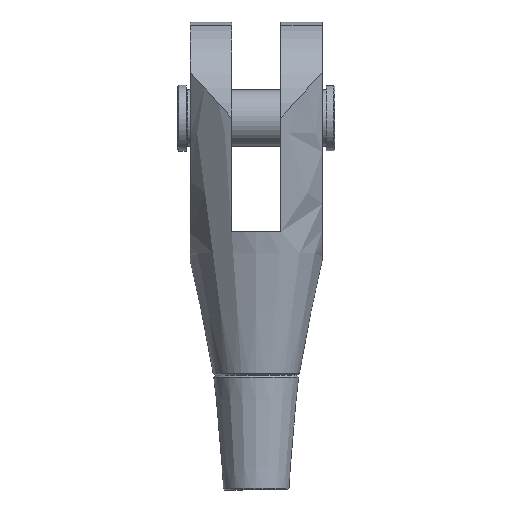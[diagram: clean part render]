
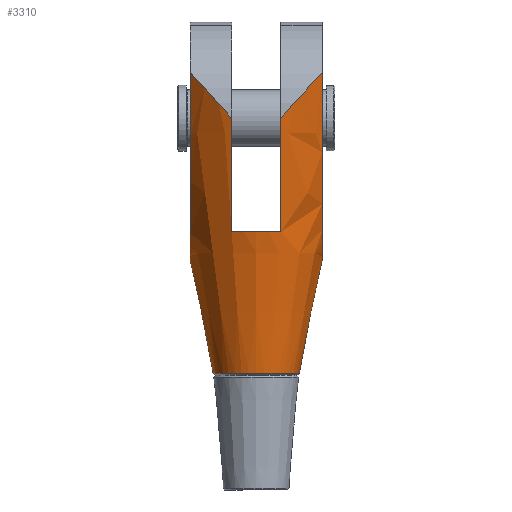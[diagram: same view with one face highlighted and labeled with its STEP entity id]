
A CAD part, front view. The second image highlights one B-rep face of the part: STEP entity #3310.
In plain terms, the highlighted conical face has half-angle 11.5 degrees and reference radius 71.858 mm.
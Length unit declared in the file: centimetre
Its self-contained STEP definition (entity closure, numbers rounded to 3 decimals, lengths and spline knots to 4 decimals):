
#886=B_SPLINE_CURVE_WITH_KNOTS('',3,(#4490,#4491,#4492,#4493,#4494,#4495,
#4496,#4497,#4498,#4499),.UNSPECIFIED.,.F.,.F.,(4,2,2,2,4),(27.5867,
29.029,31.2695,32.3898,33.4522),
 .UNSPECIFIED.);
#887=B_SPLINE_CURVE_WITH_KNOTS('',3,(#4511,#4512,#4513,#4514,#4515,#4516,
#4517,#4518,#4519,#4520),.UNSPECIFIED.,.F.,.F.,(4,2,2,2,4),(87.0863,
88.1486,89.2689,91.5094,92.9517),
 .UNSPECIFIED.);
#888=B_SPLINE_CURVE_WITH_KNOTS('',3,(#4526,#4527,#4528,#4529,#4530,#4531,
#4532,#4533,#4534,#4535),.UNSPECIFIED.,.F.,.F.,(4,2,2,2,4),(87.8559,
89.2982,91.5387,92.659,93.7214),
 .UNSPECIFIED.);
#889=B_SPLINE_CURVE_WITH_KNOTS('',3,(#4546,#4547,#4548,#4549,#4550,#4551,
#4552,#4553,#4554,#4555),.UNSPECIFIED.,.F.,.F.,(4,2,2,2,4),(26.8171,
27.8794,28.9997,31.2402,32.6825),
 .UNSPECIFIED.);
#932=(
BOUNDED_CURVE()
B_SPLINE_CURVE(2,(#4486,#4487,#4488),.UNSPECIFIED.,.F.,.F.)
B_SPLINE_CURVE_WITH_KNOTS((3,3),(2.031,44.6743),
 .UNSPECIFIED.)
CURVE()
GEOMETRIC_REPRESENTATION_ITEM()
RATIONAL_B_SPLINE_CURVE((1.061,1.67,1.061))
REPRESENTATION_ITEM('')
);
#933=(
BOUNDED_CURVE()
B_SPLINE_CURVE(2,(#4501,#4502,#4503),.UNSPECIFIED.,.F.,.F.)
B_SPLINE_CURVE_WITH_KNOTS((3,3),(7.7855,19.6245),
 .UNSPECIFIED.)
CURVE()
GEOMETRIC_REPRESENTATION_ITEM()
RATIONAL_B_SPLINE_CURVE((1.014,1.018,1.))
REPRESENTATION_ITEM('')
);
#934=(
BOUNDED_CURVE()
B_SPLINE_CURVE(2,(#4507,#4508,#4509),.UNSPECIFIED.,.F.,.F.)
B_SPLINE_CURVE_WITH_KNOTS((3,3),(0.,11.8389),.UNSPECIFIED.)
CURVE()
GEOMETRIC_REPRESENTATION_ITEM()
RATIONAL_B_SPLINE_CURVE((1.,1.018,1.014))
REPRESENTATION_ITEM('')
);
#935=(
BOUNDED_CURVE()
B_SPLINE_CURVE(2,(#4522,#4523,#4524),.UNSPECIFIED.,.F.,.F.)
B_SPLINE_CURVE_WITH_KNOTS((3,3),(2.031,44.6743),
 .UNSPECIFIED.)
CURVE()
GEOMETRIC_REPRESENTATION_ITEM()
RATIONAL_B_SPLINE_CURVE((1.061,1.67,1.061))
REPRESENTATION_ITEM('')
);
#936=(
BOUNDED_CURVE()
B_SPLINE_CURVE(2,(#4537,#4538,#4539),.UNSPECIFIED.,.F.,.F.)
B_SPLINE_CURVE_WITH_KNOTS((3,3),(7.7855,19.6245),
 .UNSPECIFIED.)
CURVE()
GEOMETRIC_REPRESENTATION_ITEM()
RATIONAL_B_SPLINE_CURVE((1.014,1.018,1.))
REPRESENTATION_ITEM('')
);
#937=(
BOUNDED_CURVE()
B_SPLINE_CURVE(2,(#4543,#4544,#4545),.UNSPECIFIED.,.F.,.F.)
B_SPLINE_CURVE_WITH_KNOTS((3,3),(0.,11.8389),.UNSPECIFIED.)
CURVE()
GEOMETRIC_REPRESENTATION_ITEM()
RATIONAL_B_SPLINE_CURVE((1.,1.018,1.014))
REPRESENTATION_ITEM('')
);
#945=FACE_BOUND('',#1177,.T.);
#989=FACE_OUTER_BOUND('',#1176,.T.);
#1176=EDGE_LOOP('',(#2210,#2211,#2212,#2213,#2214,#2215,#2216,#2217,#2218,
#2219,#2220,#2221));
#1177=EDGE_LOOP('',(#2222));
#1405=CIRCLE('',#3502,3.9399);
#1406=CIRCLE('',#3504,6.5652);
#1407=CIRCLE('',#3505,6.5652);
#1449=VERTEX_POINT('',#4481);
#1450=VERTEX_POINT('',#4484);
#1451=VERTEX_POINT('',#4485);
#1452=VERTEX_POINT('',#4489);
#1453=VERTEX_POINT('',#4500);
#1454=VERTEX_POINT('',#4504);
#1455=VERTEX_POINT('',#4506);
#1456=VERTEX_POINT('',#4510);
#1457=VERTEX_POINT('',#4521);
#1458=VERTEX_POINT('',#4525);
#1459=VERTEX_POINT('',#4536);
#1460=VERTEX_POINT('',#4540);
#1461=VERTEX_POINT('',#4542);
#1759=EDGE_CURVE('',#1449,#1449,#1405,.T.);
#1760=EDGE_CURVE('',#1450,#1451,#932,.T.);
#1761=EDGE_CURVE('',#1451,#1452,#886,.T.);
#1762=EDGE_CURVE('',#1452,#1453,#933,.T.);
#1763=EDGE_CURVE('',#1453,#1454,#1406,.T.);
#1764=EDGE_CURVE('',#1454,#1455,#934,.T.);
#1765=EDGE_CURVE('',#1455,#1456,#887,.T.);
#1766=EDGE_CURVE('',#1456,#1457,#935,.T.);
#1767=EDGE_CURVE('',#1457,#1458,#888,.T.);
#1768=EDGE_CURVE('',#1458,#1459,#936,.T.);
#1769=EDGE_CURVE('',#1459,#1460,#1407,.T.);
#1770=EDGE_CURVE('',#1460,#1461,#937,.T.);
#1771=EDGE_CURVE('',#1461,#1450,#889,.T.);
#2210=ORIENTED_EDGE('',*,*,#1760,.T.);
#2211=ORIENTED_EDGE('',*,*,#1761,.T.);
#2212=ORIENTED_EDGE('',*,*,#1762,.T.);
#2213=ORIENTED_EDGE('',*,*,#1763,.T.);
#2214=ORIENTED_EDGE('',*,*,#1764,.T.);
#2215=ORIENTED_EDGE('',*,*,#1765,.T.);
#2216=ORIENTED_EDGE('',*,*,#1766,.T.);
#2217=ORIENTED_EDGE('',*,*,#1767,.T.);
#2218=ORIENTED_EDGE('',*,*,#1768,.T.);
#2219=ORIENTED_EDGE('',*,*,#1769,.T.);
#2220=ORIENTED_EDGE('',*,*,#1770,.T.);
#2221=ORIENTED_EDGE('',*,*,#1771,.T.);
#2222=ORIENTED_EDGE('',*,*,#1759,.F.);
#3109=CONICAL_SURFACE('',#3503,7.1858,11.5);
#3310=ADVANCED_FACE('',(#989,#945),#3109,.T.);
#3502=AXIS2_PLACEMENT_3D('',#4482,#3715,#3716);
#3503=AXIS2_PLACEMENT_3D('',#4483,#3717,#3718);
#3504=AXIS2_PLACEMENT_3D('',#4505,#3719,#3720);
#3505=AXIS2_PLACEMENT_3D('',#4541,#3721,#3722);
#3715=DIRECTION('center_axis',(0.,0.,-1.));
#3716=DIRECTION('ref_axis',(0.,-1.,0.));
#3717=DIRECTION('center_axis',(0.,0.,
1.));
#3718=DIRECTION('ref_axis',(0.,1.,0.));
#3719=DIRECTION('center_axis',(0.,0.,
-1.));
#3720=DIRECTION('ref_axis',(0.,1.,0.));
#3721=DIRECTION('center_axis',(0.,0.,
-1.));
#3722=DIRECTION('ref_axis',(0.,1.,0.));
#4481=CARTESIAN_POINT('',(0.,3.9399,-23.304));
#4482=CARTESIAN_POINT('Origin',(0.,0.,
-23.304));
#4483=CARTESIAN_POINT('Origin',(0.,0.,
-7.35));
#4484=CARTESIAN_POINT('',(6.05,7.3563,4.1458));
#4485=CARTESIAN_POINT('',(6.05,-7.3563,4.1458));
#4486=CARTESIAN_POINT('Ctrl Pts',(6.05,7.3563,4.1458));
#4487=CARTESIAN_POINT('Ctrl Pts',(6.05,0.,-23.7805));
#4488=CARTESIAN_POINT('Ctrl Pts',(6.05,-7.3563,4.1458));
#4489=CARTESIAN_POINT('',(2.25,-8.3845,0.));
#4490=CARTESIAN_POINT('Ctrl Pts',(6.05,-7.3563,4.1458));
#4491=CARTESIAN_POINT('Ctrl Pts',(5.7337,-7.5299,3.8174));
#4492=CARTESIAN_POINT('Ctrl Pts',(5.4087,-7.6822,3.4789));
#4493=CARTESIAN_POINT('Ctrl Pts',(4.5735,-8.013,2.6034));
#4494=CARTESIAN_POINT('Ctrl Pts',(4.06,-8.159,2.0604));
#4495=CARTESIAN_POINT('Ctrl Pts',(3.3261,-8.2989,1.2591));
#4496=CARTESIAN_POINT('Ctrl Pts',(3.0892,-8.3323,0.9959));
#4497=CARTESIAN_POINT('Ctrl Pts',(2.6477,-8.3745,0.4887));
#4498=CARTESIAN_POINT('Ctrl Pts',(2.442,-8.3845,0.2446));
#4499=CARTESIAN_POINT('Ctrl Pts',(2.25,-8.3845,0.));
#4500=CARTESIAN_POINT('',(2.25,-6.1676,-10.4));
#4501=CARTESIAN_POINT('Ctrl Pts',(2.25,-8.3845,0.));
#4502=CARTESIAN_POINT('Ctrl Pts',(2.25,-7.1222,-5.9922));
#4503=CARTESIAN_POINT('Ctrl Pts',(2.25,-6.1676,-10.4));
#4504=CARTESIAN_POINT('',(-2.25,-6.1676,-10.4));
#4505=CARTESIAN_POINT('Origin',(0.,0.,
-10.4));
#4506=CARTESIAN_POINT('',(-2.25,-8.3845,0.));
#4507=CARTESIAN_POINT('Ctrl Pts',(-2.25,-6.1676,-10.4));
#4508=CARTESIAN_POINT('Ctrl Pts',(-2.25,-7.1222,-5.9922));
#4509=CARTESIAN_POINT('Ctrl Pts',(-2.25,-8.3845,0.));
#4510=CARTESIAN_POINT('',(-6.05,-7.3563,4.1458));
#4511=CARTESIAN_POINT('Ctrl Pts',(-2.25,-8.3845,0.));
#4512=CARTESIAN_POINT('Ctrl Pts',(-2.442,-8.3845,0.2446));
#4513=CARTESIAN_POINT('Ctrl Pts',(-2.6477,-8.3745,0.4887));
#4514=CARTESIAN_POINT('Ctrl Pts',(-3.0892,-8.3323,0.9959));
#4515=CARTESIAN_POINT('Ctrl Pts',(-3.3261,-8.2989,1.2591));
#4516=CARTESIAN_POINT('Ctrl Pts',(-4.06,-8.159,2.0604));
#4517=CARTESIAN_POINT('Ctrl Pts',(-4.5735,-8.013,2.6034));
#4518=CARTESIAN_POINT('Ctrl Pts',(-5.4087,-7.6822,3.4789));
#4519=CARTESIAN_POINT('Ctrl Pts',(-5.7337,-7.5299,3.8174));
#4520=CARTESIAN_POINT('Ctrl Pts',(-6.05,-7.3563,4.1458));
#4521=CARTESIAN_POINT('',(-6.05,7.3563,4.1458));
#4522=CARTESIAN_POINT('Ctrl Pts',(-6.05,-7.3563,4.1458));
#4523=CARTESIAN_POINT('Ctrl Pts',(-6.05,0.,
-23.7805));
#4524=CARTESIAN_POINT('Ctrl Pts',(-6.05,7.3563,4.1458));
#4525=CARTESIAN_POINT('',(-2.25,8.3845,0.));
#4526=CARTESIAN_POINT('Ctrl Pts',(-6.05,7.3563,4.1458));
#4527=CARTESIAN_POINT('Ctrl Pts',(-5.7337,7.5299,3.8174));
#4528=CARTESIAN_POINT('Ctrl Pts',(-5.4087,7.6822,3.4789));
#4529=CARTESIAN_POINT('Ctrl Pts',(-4.5735,8.013,2.6034));
#4530=CARTESIAN_POINT('Ctrl Pts',(-4.06,8.159,2.0604));
#4531=CARTESIAN_POINT('Ctrl Pts',(-3.3261,8.2989,1.2591));
#4532=CARTESIAN_POINT('Ctrl Pts',(-3.0892,8.3323,0.9959));
#4533=CARTESIAN_POINT('Ctrl Pts',(-2.6477,8.3745,0.4887));
#4534=CARTESIAN_POINT('Ctrl Pts',(-2.442,8.3845,0.2446));
#4535=CARTESIAN_POINT('Ctrl Pts',(-2.25,8.3845,0.));
#4536=CARTESIAN_POINT('',(-2.25,6.1676,-10.4));
#4537=CARTESIAN_POINT('Ctrl Pts',(-2.25,8.3845,0.));
#4538=CARTESIAN_POINT('Ctrl Pts',(-2.25,7.1222,-5.9922));
#4539=CARTESIAN_POINT('Ctrl Pts',(-2.25,6.1676,-10.4));
#4540=CARTESIAN_POINT('',(2.25,6.1676,-10.4));
#4541=CARTESIAN_POINT('Origin',(0.,0.,
-10.4));
#4542=CARTESIAN_POINT('',(2.25,8.3845,0.));
#4543=CARTESIAN_POINT('Ctrl Pts',(2.25,6.1676,-10.4));
#4544=CARTESIAN_POINT('Ctrl Pts',(2.25,7.1222,-5.9922));
#4545=CARTESIAN_POINT('Ctrl Pts',(2.25,8.3845,0.));
#4546=CARTESIAN_POINT('Ctrl Pts',(2.25,8.3845,0.));
#4547=CARTESIAN_POINT('Ctrl Pts',(2.442,8.3845,0.2446));
#4548=CARTESIAN_POINT('Ctrl Pts',(2.6477,8.3745,0.4887));
#4549=CARTESIAN_POINT('Ctrl Pts',(3.0892,8.3323,0.9959));
#4550=CARTESIAN_POINT('Ctrl Pts',(3.3261,8.2989,1.2591));
#4551=CARTESIAN_POINT('Ctrl Pts',(4.06,8.159,2.0604));
#4552=CARTESIAN_POINT('Ctrl Pts',(4.5735,8.013,2.6034));
#4553=CARTESIAN_POINT('Ctrl Pts',(5.4087,7.6822,3.4789));
#4554=CARTESIAN_POINT('Ctrl Pts',(5.7337,7.5299,3.8174));
#4555=CARTESIAN_POINT('Ctrl Pts',(6.05,7.3563,4.1458));
